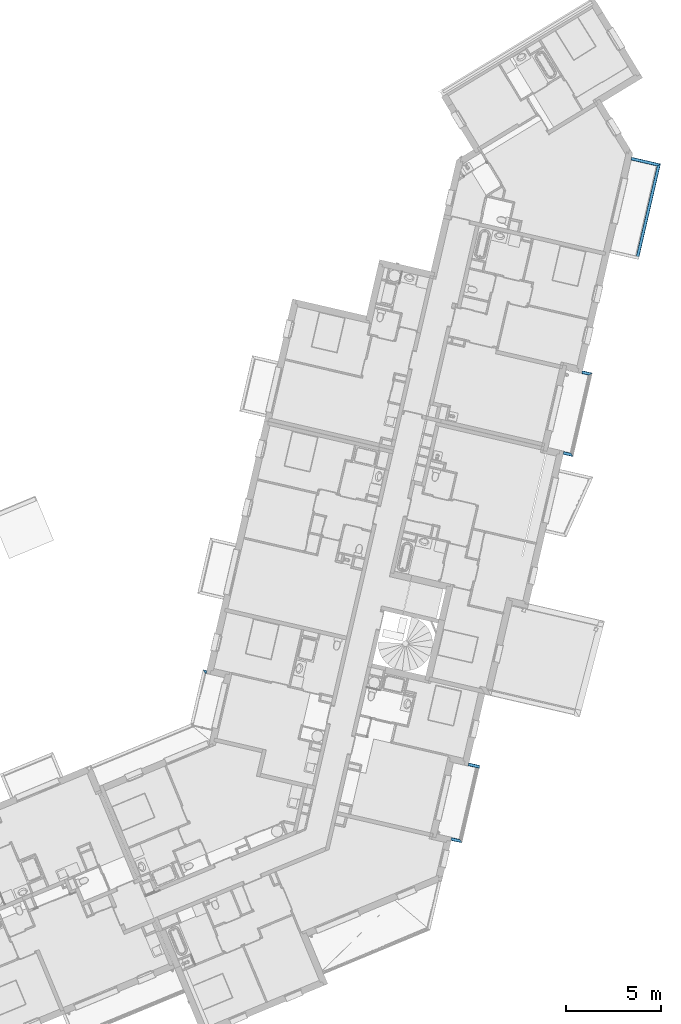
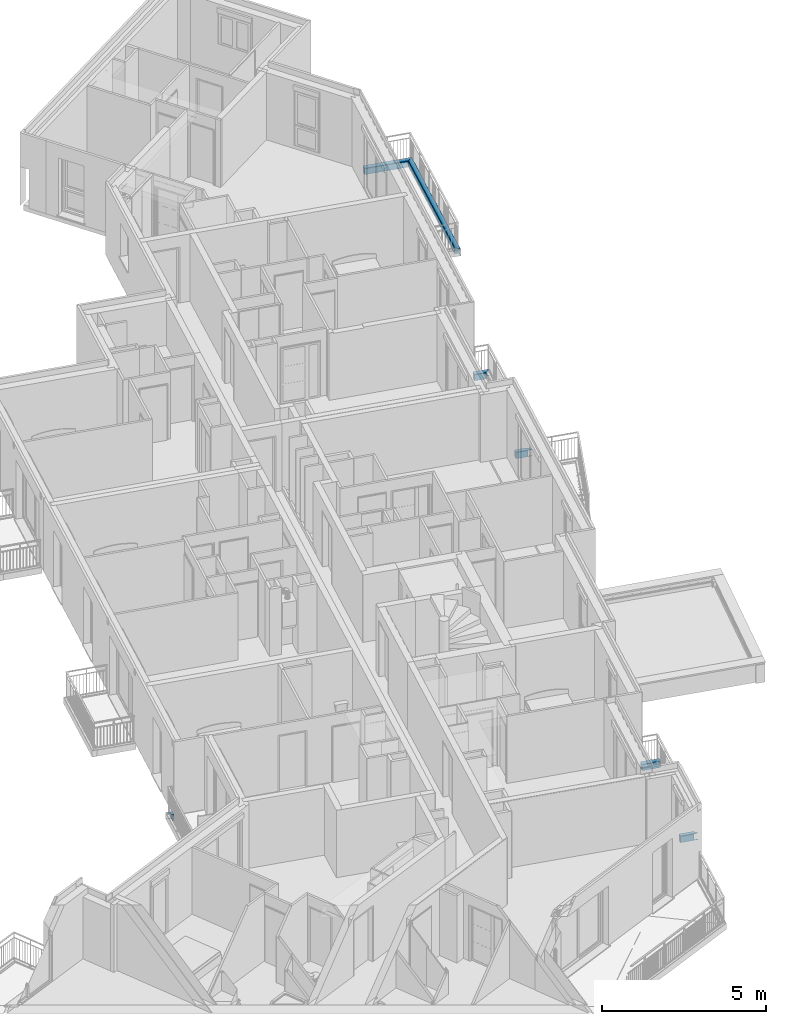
# One storey, part 4 of 90: 7 slabs.
"""IFC2X3 building model written with IfcOpenShell, lengths in metres."""

import ifcopenshell
import ifcopenshell.guid

model = None  # the IFC model being written
_history = None  # IfcOwnerHistory: only IFC2X3 demands one
_inside = {}  # id of a spatial element -> (the spatial element, [elements in it])
_under = {}  # id of a project, library or spatial element -> (it, [spatial elements below it])
_declared = {}  # id of a project -> (the project, [libraries it declares])
_typed = {}  # id of a type object -> (the type object, [elements of that type])
_made_of = {}  # id of a material, layer set ... -> (it, [elements and type objects made of it])


def new_model(schema):
    """Start an empty IFC model of exactly this schema.

    Asked for "IFC4X3", IfcOpenShell would pick the latest addendum, in which some entities
    have other attributes; the version numbers below select the first issue.
    IFC2X3 requires an IfcOwnerHistory on every rooted entity: one is made here for all.
    """
    global model, _history
    if schema == "IFC4X3":
        model = ifcopenshell.file(schema_version=(4, 3, 0, 0))
    else:
        model = ifcopenshell.file(schema=schema)
    _inside.clear()
    _under.clear()
    _declared.clear()
    _typed.clear()
    _made_of.clear()
    _history = None
    if model.schema == "IFC2X3":
        org = make("IfcOrganization", Name="unknown")
        user = make(
            "IfcPersonAndOrganization",
            ThePerson=make("IfcPerson", FamilyName="unknown"),
            TheOrganization=org,
        )
        app = make(
            "IfcApplication",
            ApplicationDeveloper=org,
            Version="unknown",
            ApplicationFullName="unknown",
            ApplicationIdentifier="unknown",
        )
        _history = make(
            "IfcOwnerHistory",
            OwningUser=user,
            OwningApplication=app,
            ChangeAction="ADDED",
            CreationDate=0,
        )
    return model


def make(cls, **values):
    """One entity of the class cls with the attributes given. An attribute that is None is left unset."""
    return model.create_entity(
        cls, **{name: value for name, value in values.items() if value is not None}
    )


def entity(cls, *values):
    """Any entity or typed value of the class cls, its attributes in the order of the schema. None: left unset."""
    e = model.create_entity(cls)
    for i, value in enumerate(values):
        if value is not None:
            e[i] = value
    return e


def rooted(cls, **values):
    """An entity with a GlobalId (a new one), such as an element, a storey or a relation."""
    return make(cls, GlobalId=ifcopenshell.guid.new(), OwnerHistory=_history, **values)


def si_unit(unit_type, name, prefix=None):
    """IfcSIUnit, for example si_unit("LENGTHUNIT", "METRE", prefix="MILLI")."""
    return make("IfcSIUnit", UnitType=unit_type, Prefix=prefix, Name=name)


def converted_unit(unit_type, name, factor, base, dimensions=None, offset=None):
    """IfcConversionBasedUnit, such as the inch: factor (a typed value) times the base unit."""
    return make(
        "IfcConversionBasedUnit"
        if offset is None
        else "IfcConversionBasedUnitWithOffset",
        ConversionOffset=offset,
        Dimensions=None
        if dimensions is None
        else entity("IfcDimensionalExponents", *dimensions),
        UnitType=unit_type,
        Name=name,
        ConversionFactor=make(
            "IfcMeasureWithUnit", ValueComponent=factor, UnitComponent=base
        ),
    )


def derived_unit(unit_type, elements):
    """IfcDerivedUnit: a product of units, each with its exponent."""
    return make(
        "IfcDerivedUnit",
        Elements=[
            make("IfcDerivedUnitElement", Unit=unit, Exponent=power)
            for unit, power in elements
        ],
        UnitType=unit_type,
    )


def money_unit(currency):
    """IfcMonetaryUnit."""
    return make("IfcMonetaryUnit", Currency=currency)


def assignment(units):
    """IfcUnitAssignment: the units of a project."""
    return None if units is None else make("IfcUnitAssignment", Units=units)


def point(xyz):
    """IfcCartesianPoint."""
    return None if xyz is None else make("IfcCartesianPoint", Coordinates=xyz)


def direction(xyz):
    """IfcDirection."""
    return None if xyz is None else make("IfcDirection", DirectionRatios=xyz)


def frame(location, z_axis=None, x_axis=None):
    """IfcAxis2Placement3D, a coordinate frame: its origin and axes. An axis left out is left unset."""
    return make(
        "IfcAxis2Placement3D",
        Location=point(location),
        Axis=direction(z_axis),
        RefDirection=direction(x_axis),
    )


def origin_with_axes():
    """The frame at (0, 0, 0) with the z axis (0, 0, 1) and the x axis (1, 0, 0) written out."""
    return frame((0.0, 0.0, 0.0), z_axis=(0.0, 0.0, 1.0), x_axis=(1.0, 0.0, 0.0))


def place(relative_to, where):
    """IfcLocalPlacement: puts the frame where relative to a parent placement (None: the world)."""
    return make(
        "IfcLocalPlacement", PlacementRelTo=relative_to, RelativePlacement=where
    )


def context(
    kind, dimensions, precision=None, world=None, true_north=None, identifier=None
):
    """IfcGeometricRepresentationContext, for example the 3D "Model" context."""
    return make(
        "IfcGeometricRepresentationContext",
        ContextIdentifier=identifier,
        ContextType=kind,
        CoordinateSpaceDimension=dimensions,
        Precision=precision,
        WorldCoordinateSystem=world,
        TrueNorth=true_north,
    )


def subcontext(parent, identifier, kind, view, scale=None):
    """IfcGeometricRepresentationSubContext, for example "Body" below "Model"."""
    return make(
        "IfcGeometricRepresentationSubContext",
        ContextIdentifier=identifier,
        ContextType=kind,
        ParentContext=parent,
        TargetScale=scale,
        TargetView=view,
    )


def project(units=None, contexts=None):
    """IfcProject with its units and contexts."""
    return rooted(
        "IfcProject",
        Name="project",
        RepresentationContexts=contexts,
        UnitsInContext=assignment(units),
    )


def spatial(cls, under=None, at=None, **own):
    """A site, building, storey or space (cls), placed at a placement, below another one or the project."""
    s = rooted(cls, ObjectPlacement=at, **own)
    if under is not None:
        _under.setdefault(under.id(), (under, []))[1].append(s)
    return s


def faces_of(points, faces, orient=None, outer=None):
    """IfcFace entities. A face is a list of loops; a loop is a list of indices into points, from 0.

    orient and outer hold one flag for each loop. By default every Orientation is true, the
    first loop of a face is its IfcFaceOuterBound and the others are IfcFaceBound.
    """
    made = []
    for i, loops in enumerate(faces):
        bounds = []
        for j, loop in enumerate(loops):
            is_outer = j == 0 if outer is None else outer[i][j]
            bounds.append(
                make(
                    "IfcFaceOuterBound" if is_outer else "IfcFaceBound",
                    Bound=make("IfcPolyLoop", Polygon=[points[k] for k in loop]),
                    Orientation=True if orient is None else orient[i][j],
                )
            )
        made.append(make("IfcFace", Bounds=bounds))
    return made


def faceted_brep(points, faces, orient=None, outer=None, voids=None):
    """IfcFacetedBrep: a solid bounded by flat faces; with voids (closed shells), ...WithVoids."""
    shared = [point(p) for p in points]
    hull = make("IfcClosedShell", CfsFaces=faces_of(shared, faces, orient, outer))
    if voids is None:
        return make("IfcFacetedBrep", Outer=hull)
    return make(
        "IfcFacetedBrepWithVoids",
        Outer=hull,
        Voids=[
            make(cls, CfsFaces=faces_of(shared, fs, o, b)) for cls, fs, o, b in voids
        ],
    )


def shape(context_of_items, identifier, shape_type, items):
    """IfcShapeRepresentation: the items that make up one representation, for example the "Body"."""
    return make(
        "IfcShapeRepresentation",
        ContextOfItems=context_of_items,
        RepresentationIdentifier=identifier,
        RepresentationType=shape_type,
        Items=items,
    )


def material(Name=None, Category=None):
    """IfcMaterial."""
    return make("IfcMaterial", Name=Name, Category=Category)


def made_of(thing, what):
    """Note that an element or type object is made of a material, layer set ...; save() writes the relation."""
    if what is not None:
        _made_of.setdefault(what.id(), (what, []))[1].append(thing)
    return thing


def type_object(cls, material=None, **own):
    """A type object (cls), such as IfcWallType, which elements share."""
    return made_of(rooted(cls, **own), material)


def element(
    cls,
    number,
    at=None,
    inside=None,
    cuts=None,
    type_object=None,
    material=None,
    context=None,
    identifier="Body",
    shape_type=None,
    held_by="IfcProductDefinitionShape",
    body=None,
    shapes=None,
    **own,
):
    """One element of the class cls, such as IfcWall. Its Tag is "e" and its number.

    at: its placement. inside: the storey or other place that contains it. cuts: it is an
    opening in that element (IfcRelVoidsElement). A single representation is given by context,
    identifier, shape_type and body (its items); several are given by shapes. held_by: the class
    of the entity that holds the representations. save() writes the other relations.
    """
    e = rooted(cls, Tag="e%d" % number, ObjectPlacement=at, **own)
    if body is not None:
        shapes = [shape(context, identifier, shape_type, body)]
    if shapes is not None:
        e.Representation = make(held_by, Representations=shapes)
    if inside is not None:
        _inside.setdefault(inside.id(), (inside, []))[1].append(e)
    if cuts is not None:
        rooted(
            "IfcRelVoidsElement", RelatingBuildingElement=cuts, RelatedOpeningElement=e
        )
    if type_object is not None:
        _typed.setdefault(type_object.id(), (type_object, []))[1].append(e)
    return made_of(e, material)


def aggregate(whole, parts):
    """IfcRelAggregates: a whole, such as a stair, and the parts it consists of."""
    return rooted("IfcRelAggregates", RelatingObject=whole, RelatedObjects=parts)


def save(model, path):
    """Write the relations noted so far, then the file.

    IfcRelAggregates (storeys below a building ...), IfcRelContainedInSpatialStructure (elements
    in a storey), IfcRelDefinesByType, IfcRelAssociatesMaterial and IfcRelDeclares: one each for
    every whole, place, type object, material and project.
    """
    for whole, parts in _under.values():
        aggregate(whole, parts)
    for where, things in _inside.values():
        rooted(
            "IfcRelContainedInSpatialStructure",
            RelatedElements=things,
            RelatingStructure=where,
        )
    for kind, things in _typed.values():
        rooted("IfcRelDefinesByType", RelatedObjects=things, RelatingType=kind)
    for what, things in _made_of.values():
        rooted("IfcRelAssociatesMaterial", RelatedObjects=things, RelatingMaterial=what)
    for by, libraries in _declared.values():
        rooted("IfcRelDeclares", RelatingContext=by, RelatedDefinitions=libraries)
    model.write(path)


model = new_model("IFC2X3")

# Units and contexts
model_context = context("Model", 3, precision=1e-05, world=origin_with_axes(), true_north=direction((0.0, 1.0)))
body_context = subcontext(model_context, "Body", "Model", "MODEL_VIEW")
ifc_project = project(units=[si_unit("LENGTHUNIT", "METRE"), si_unit("AREAUNIT", "SQUARE_METRE"), si_unit("VOLUMEUNIT", "CUBIC_METRE"), converted_unit("PLANEANGLEUNIT", "DEGREE", entity("IfcPlaneAngleMeasure", 0.0174532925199), si_unit("PLANEANGLEUNIT", "RADIAN"), dimensions=[0, 0, 0, 0, 0, 0, 0]), si_unit("SOLIDANGLEUNIT", "STERADIAN"), money_unit("EUR"), converted_unit("TIMEUNIT", "Year", entity("IfcTimeMeasure", 31556926.0), si_unit("TIMEUNIT", "SECOND"), dimensions=[0, 0, 1, 0, 0, 0, 0]), si_unit("MASSUNIT", "GRAM", prefix="KILO"), si_unit("THERMODYNAMICTEMPERATUREUNIT", "DEGREE_CELSIUS"), si_unit("LUMINOUSINTENSITYUNIT", "LUMEN"), si_unit("ENERGYUNIT", "JOULE", prefix="MEGA"), derived_unit("THERMALCONDUCTANCEUNIT", [(si_unit("POWERUNIT", "WATT"), 1), (si_unit("LENGTHUNIT", "METRE"), -1), (si_unit("THERMODYNAMICTEMPERATUREUNIT", "KELVIN"), -1)]), derived_unit("SPECIFICHEATCAPACITYUNIT", [(si_unit("ENERGYUNIT", "JOULE"), 1), (si_unit("MASSUNIT", "GRAM", prefix="KILO"), -1), (si_unit("THERMODYNAMICTEMPERATUREUNIT", "KELVIN"), -1)]), derived_unit("MASSDENSITYUNIT", [(si_unit("MASSUNIT", "GRAM", prefix="KILO"), 1), (si_unit("VOLUMEUNIT", "CUBIC_METRE"), -1)])], contexts=[model_context])

# Site, building, storey
site_placement = place(None, origin_with_axes())
site = spatial("IfcSite", under=ifc_project, at=site_placement, Name="Site", CompositionType="ELEMENT")
building_placement = place(site_placement, origin_with_axes())
building = spatial("IfcBuilding", under=site, at=building_placement, Name="Bâtiment", CompositionType="ELEMENT")
storey_placement = place(building_placement, frame((0.0, 0.0, 2.72), z_axis=(0.0, 0.0, 1.0), x_axis=(1.0, 0.0, 0.0)))
storey = spatial("IfcBuildingStorey", under=building, at=storey_placement, Name="R+1", CompositionType="ELEMENT", Elevation=2.72)

# Slabs
ifc_material = material(Name="Béton")
slab_type = type_object("IfcSlabType", Name="Nez de balcon 160 x 239", PredefinedType="USERDEFINED")
slab_1_placement = place(storey_placement, frame((-6.21285531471, -13.9345211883, -0.22), z_axis=(0.0, 0.0, 1.0), x_axis=(0.974387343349, -0.224876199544, 0.0)))
element("IfcSlab", 1, at=slab_1_placement, inside=storey, type_object=slab_type, material=ifc_material, Name="Nez-de-balcon béton", ObjectType="BALCONY", PredefinedType="USERDEFINED", context=body_context, shape_type="Brep", body=[
    faceted_brep([(0.600000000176, -0.16, 0.00872064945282), (0.575129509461, -0.16, 0.00872064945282), (0.575129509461, -0.0248704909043, 0.00872064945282), (0.600000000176, -0.0248704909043, 0.00872064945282), (0.565259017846, -0.16, 0.0), (0.568543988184, -0.16, 0.00622819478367), (0.600000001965, -0.16, 0.22), (0.0, -0.16, 0.22), (0.0, -0.16, 0.0), (0.568543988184, -0.0314560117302, 0.00622819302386), (0.600000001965, -0.018284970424, 0.00622819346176), (0.0, -0.0248704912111, 0.00872065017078), (0.0, -0.018284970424, 0.00622819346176), (0.600000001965, -0.015, 0.0), (0.600000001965, 0.0, 0.0), (0.600000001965, 0.0, 0.230000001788), (0.600000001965, -0.150605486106, 0.230000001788), (0.565259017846, -0.0347409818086, 0.0), (0.599336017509, -0.150019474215, 0.230623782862), (0.0, -0.150019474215, 0.230623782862), (0.0, -0.0314560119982, 0.00622819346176), (0.0, -0.0347409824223, 0.0), (0.0, -0.00998052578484, 0.239376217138), (0.0, 0.0, 0.23), (0.0, 0.0, 0.0), (0.0, -0.015, 0.0), (0.590019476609, -0.00998052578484, 0.239376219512)], [[[0, 1, 2, 3]], [[4, 5, 1, 0, 6, 7, 8]], [[5, 9, 2, 1]], [[10, 3, 2, 11, 12]], [[6, 0, 3, 10, 13, 14, 15, 16]], [[4, 17, 9, 5]], [[7, 6, 16, 18, 19]], [[20, 21, 8, 7, 19, 22, 23, 24, 25, 12, 11]], [[21, 17, 4, 8]], [[11, 2, 9, 20]], [[12, 25, 13, 10]], [[25, 24, 14, 13]], [[24, 23, 15, 14]], [[18, 16, 15, 26]], [[20, 9, 17, 21]], [[22, 19, 18, 26]], [[23, 22, 26, 15]]]),
])
slab_2_placement = place(storey_placement, frame((-6.56504853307, -18.1287072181, -0.22), z_axis=(0.0, 0.0, 1.0), x_axis=(-0.977900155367, 0.209072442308, 0.0)))
element("IfcSlab", 2, at=slab_2_placement, inside=storey, type_object=slab_type, material=ifc_material, Name="Nez-de-balcon béton", ObjectType="BALCONY", PredefinedType="USERDEFINED", context=body_context, shape_type="Brep", body=[
    faceted_brep([(0.599835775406, -0.0150000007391, 0.0), (0.60007863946, 0.0, 0.0), (0.60007863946, 0.0, 0.00872065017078), (0.59967596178, -0.0248704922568, 0.00872065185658), (0.599782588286, -0.0182849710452, 0.00622819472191), (0.0150019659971, 0.0, 0.0), (0.0147591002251, -0.0150000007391, 0.0), (0.60007863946, -1.05992921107e-07, 0.0095500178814), (0.018287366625, 0.0, 0.00622819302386), (0.0248737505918, 0.0, 0.00872064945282), (0.160020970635, 0.0, 0.00872065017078), (0.160020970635, 0.0, 0.22), (0.150625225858, 0.0, 0.230000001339), (0.60007863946, 0.0, 0.23), (0.60007863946, 0.0, 0.22), (0.60007863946, -1.05993006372e-07, 0.02), (0.597488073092, -0.16, 0.0095500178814), (0.597488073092, -0.16, 0.00872064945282), (0.0179913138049, -0.0182849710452, 0.00622819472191), (0.159618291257, -0.0248704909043, 0.00872064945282), (0.0244710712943, -0.0248704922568, 0.00872065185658), (0.157430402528, -0.16, 0.00872064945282), (0.157430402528, -0.16, 0.22), (0.150028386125, -0.000663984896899, 0.230623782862), (0.14761016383, -0.150019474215, 0.230623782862), (0.00982023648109, -0.00998052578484, 0.239376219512), (0.599917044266, -0.00998052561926, 0.239376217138), (0.597488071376, -0.16, 0.22), (0.597649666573, -0.150019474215, 0.230623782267), (0.597488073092, -0.16, 0.02), (0.157430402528, -0.16, 0.0), (0.597488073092, -0.16, 0.0), (0.599516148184, -0.0347409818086, 0.0), (0.599569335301, -0.0314560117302, 0.00622819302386), (0.159511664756, -0.0314560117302, 0.00622819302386), (0.159458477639, -0.0347409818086, 0.0)], [[[0, 1, 2, 3, 4]], [[5, 1, 0, 6]], [[7, 2, 1, 5, 8, 9, 10, 11, 12, 13, 14, 15]], [[3, 2, 7, 16, 17]], [[18, 4, 3, 19, 20]], [[6, 0, 4, 18]], [[8, 5, 6, 18]], [[20, 9, 8, 18]], [[20, 19, 10, 9]], [[11, 10, 19, 21, 22]], [[23, 12, 11, 22, 24]], [[25, 26, 13, 12, 23]], [[27, 14, 13, 26, 28]], [[29, 15, 14, 27]], [[16, 7, 15, 29]], [[30, 31, 17, 16, 29, 27, 22, 21]], [[31, 32, 33, 3, 17]], [[19, 3, 33, 34]], [[34, 35, 30, 21, 19]], [[22, 27, 28, 24]], [[24, 25, 23]], [[24, 28, 26, 25]], [[35, 32, 31, 30]], [[34, 33, 32, 35]]]),
])
slab_3_placement = place(storey_placement, frame((-20.1387201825, -9.05128364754, -0.21), z_axis=(0.0, 0.0, 1.0), x_axis=(0.974387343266, -0.224876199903, 0.0)))
element("IfcSlab", 3, at=slab_3_placement, inside=storey, type_object=slab_type, material=ifc_material, Name="Nez-de-balcon béton", ObjectType="BALCONY", PredefinedType="USERDEFINED", context=body_context, shape_type="Brep", body=[
    faceted_brep([(0.015, 0.0, 0.0), (0.015, -0.0150000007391, 0.0), (0.0182849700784, -0.0182849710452, 0.00622819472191), (0.0182849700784, 0.0, 0.00622819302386), (0.219999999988, -0.015, 0.0), (0.219999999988, 0.0, 0.0), (0.219999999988, -0.018284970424, 0.00622819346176), (0.0248704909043, -0.0248704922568, 0.00872065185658), (0.0248704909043, 0.0, 0.00872064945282), (0.16, 0.0, 0.00872065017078), (0.16, 0.0, 0.22), (0.150605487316, 0.0, 0.230000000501), (0.219999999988, 0.0, 0.23), (0.219999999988, -0.150019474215, 0.230623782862), (0.219999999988, -0.16, 0.22), (0.219999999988, -0.16, 0.0), (0.219999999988, -0.0347409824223, 0.0), (0.219999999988, -0.0314560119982, 0.00622819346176), (0.219999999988, -0.0248704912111, 0.00872065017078), (0.219999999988, -0.00998052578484, 0.239376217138), (0.16, -0.0248704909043, 0.00872064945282), (0.16, -0.16, 0.00872064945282), (0.16, -0.16, 0.22), (0.150019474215, -0.150019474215, 0.230623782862), (0.150019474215, -0.000663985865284, 0.230623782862), (0.0099805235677, -0.00998052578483, 0.239376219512), (0.16, -0.16, 0.0), (0.16, -0.0347409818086, 0.0), (0.16, -0.0314560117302, 0.00622819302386)], [[[0, 1, 2, 3]], [[4, 1, 0, 5]], [[6, 2, 1, 4]], [[3, 2, 7, 8]], [[5, 0, 3, 8, 9, 10, 11, 12]], [[13, 14, 15, 16, 17, 18, 6, 4, 5, 12, 19]], [[18, 20, 7, 2, 6]], [[8, 7, 20, 9]], [[20, 21, 22, 10, 9]], [[10, 22, 23, 24, 11]], [[12, 11, 24, 25, 19]], [[13, 23, 22, 14]], [[22, 21, 26, 15, 14]], [[15, 26, 27, 16]], [[17, 16, 27, 28]], [[18, 17, 28, 20]], [[19, 25, 23, 13]], [[28, 27, 26, 21, 20]], [[24, 23, 25]]]),
])
slab_4_placement = place(storey_placement, frame((-0.262589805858, 6.60777226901, -0.22), z_axis=(0.0, 0.0, 1.0), x_axis=(0.974387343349, -0.224876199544, 0.0)))
element("IfcSlab", 4, at=slab_4_placement, inside=storey, type_object=slab_type, material=ifc_material, Name="Nez-de-balcon béton", ObjectType="BALCONY", PredefinedType="USERDEFINED", context=body_context, shape_type="Brep", body=[
    faceted_brep([(0.385039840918, -0.16, 0.22), (0.0, -0.16, 0.22), (0.0, -0.16, 0.0), (0.385039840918, -0.16, 0.0), (0.385039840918, -0.16, 0.00872064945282), (0.395017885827, -0.150019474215, 0.230623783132), (0.0, -0.150019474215, 0.230623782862), (0.0, -0.0347409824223, 0.0), (0.0, -0.00998052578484, 0.239376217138), (0.0, 0.0, 0.23), (0.0, 0.0, 0.0), (0.0, -0.015, 0.0), (0.0, -0.018284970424, 0.00622819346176), (0.0, -0.0248704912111, 0.00872065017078), (0.0, -0.0314560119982, 0.00622819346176), (0.385008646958, -0.0347409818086, 0.0), (0.385007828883, -0.0314560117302, 0.00622819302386), (0.385006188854, -0.0248704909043, 0.00872064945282), (0.384999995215, 0.0, 0.22), (0.384999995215, 0.0, 0.00872065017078), (0.535021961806, -0.00998052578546, 0.239376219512), (0.394980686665, -0.000663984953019, 0.230623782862), (0.394394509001, 0.0, 0.230000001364), (0.529999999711, 0.0, 0.0), (0.520129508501, 0.0, 0.00872064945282), (0.526715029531, 0.0, 0.00622819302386), (0.530003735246, -0.0150000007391, 0.0), (0.52671958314, -0.0182849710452, 0.00622819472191), (0.52013570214, -0.0248704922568, 0.00872065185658)], [[[0, 1, 2, 3, 4]], [[5, 6, 1, 0]], [[7, 2, 1, 6, 8, 9, 10, 11, 12, 13, 14]], [[3, 2, 7, 15]], [[4, 3, 15, 16, 17]], [[18, 0, 4, 17, 19]], [[20, 8, 6, 5]], [[21, 5, 0, 18, 22]], [[22, 9, 8, 20, 21]], [[23, 10, 9, 22, 18, 19, 24, 25]], [[26, 11, 10, 23]], [[27, 12, 11, 26]], [[17, 13, 12, 27, 28]], [[16, 14, 13, 17]], [[15, 7, 14, 16]], [[24, 19, 17, 28]], [[21, 20, 5]], [[24, 28, 27, 25]], [[27, 26, 23, 25]]]),
])
slab_5_placement = place(storey_placement, frame((-0.742537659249, 2.09962098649, -0.22), z_axis=(0.0, 0.0, 1.0), x_axis=(-0.974387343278, 0.22487619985, 0.0)))
element("IfcSlab", 5, at=slab_5_placement, inside=storey, type_object=slab_type, material=ifc_material, Name="Nez-de-balcon béton", ObjectType="BALCONY", PredefinedType="USERDEFINED", context=body_context, shape_type="Brep", body=[
    faceted_brep([(0.150605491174, 0.0, 0.230000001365), (0.54612081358, 0.0, 0.23), (0.54612081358, 0.0, 0.0), (0.0150000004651, 0.0, 0.0), (0.0182849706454, 0.0, 0.00622819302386), (0.0248704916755, 0.0, 0.00872064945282), (0.160000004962, 0.0, 0.00872065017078), (0.160000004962, 0.0, 0.22), (0.00998300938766, -0.00998052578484, 0.239376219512), (0.54612081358, -0.00998052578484, 0.239376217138), (0.150019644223, -0.000663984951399, 0.230623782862), (0.54612081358, -0.015, 0.0), (0.54612081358, -0.150019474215, 0.230623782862), (0.54612081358, -0.16, 0.22), (0.54612081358, -0.16, 0.0), (0.54612081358, -0.0347409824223, 0.0), (0.54612081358, -0.0314560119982, 0.00622819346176), (0.54612081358, -0.0248704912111, 0.00872065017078), (0.54612081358, -0.018284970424, 0.00622819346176), (0.0150037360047, -0.0150000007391, 0.0), (0.0182895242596, -0.0182849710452, 0.00622819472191), (0.0248766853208, -0.0248704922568, 0.00872065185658), (0.160006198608, -0.0248704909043, 0.00872064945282), (0.160039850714, -0.16, 0.00872064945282), (0.160039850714, -0.16, 0.22), (0.150056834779, -0.150019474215, 0.230623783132), (0.160039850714, -0.16, 0.0), (0.160008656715, -0.0347409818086, 0.0), (0.160007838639, -0.0314560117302, 0.00622819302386)], [[[0, 1, 2, 3, 4, 5, 6, 7]], [[8, 9, 1, 0, 10]], [[11, 2, 1, 9, 12, 13, 14, 15, 16, 17, 18]], [[3, 2, 11, 19]], [[20, 4, 3, 19]], [[21, 5, 4, 20]], [[21, 22, 6, 5]], [[7, 6, 22, 23, 24]], [[10, 0, 7, 24, 25]], [[25, 12, 9, 8]], [[25, 8, 10]], [[24, 13, 12, 25]], [[24, 23, 26, 14, 13]], [[27, 15, 14, 26]], [[28, 16, 15, 27]], [[22, 17, 16, 28]], [[20, 18, 17, 22, 21]], [[19, 11, 18, 20]], [[22, 28, 27, 26, 23]]]),
])
slab_6_placement = place(storey_placement, frame((2.68078262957, 12.4242386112, -0.22), z_axis=(0.0, 0.0, 1.0), x_axis=(0.22487619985, 0.974387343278, 0.0)))
element("IfcSlab", 6, at=slab_6_placement, inside=storey, type_object=slab_type, material=ifc_material, Name="Nez-de-balcon béton", ObjectType="BALCONY", PredefinedType="USERDEFINED", context=body_context, shape_type="Brep", body=[
    faceted_brep([(0.0248704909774, 0.0248704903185, 0.00872065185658), (0.0182849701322, 0.0182849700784, 0.00622819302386), (0.0182849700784, 0.0, 0.00622819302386), (0.0248704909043, 0.0, 0.00872064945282), (5.14956648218, 0.018284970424, 0.00622819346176), (0.160000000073, 0.0248704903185, 0.00872065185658), (5.12469598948, 0.0248704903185, 0.00872065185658), (5.14956648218, 0.0248704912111, 0.00872065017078), (0.0150000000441, 0.015, 0.0), (0.015, 0.0, 0.0), (5.14956648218, 0.0, 0.0), (5.14956648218, 0.0, 0.230000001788), (0.150605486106, 0.0, 0.230000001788), (0.16, 0.0, 0.22), (0.16, 0.0, 0.00872065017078), (5.14956648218, 0.015, 0.0), (0.160000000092, 0.0314560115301, 0.00622819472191), (5.11811046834, 0.0314560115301, 0.00622819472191), (5.12469598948, 0.16, 0.00872064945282), (5.14956648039, 0.16, 0.00872064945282), (5.14956648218, 0.16, 0.22), (5.14956648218, 0.150605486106, 0.230000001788), (5.13958595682, 0.00998052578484, 0.239376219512), (0.00998052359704, 0.00998052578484, 0.239376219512), (0.150019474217, 0.000663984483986, 0.230623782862), (0.150019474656, 0.150019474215, 0.230623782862), (0.16000000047, 0.16, 0.22), (0.16000000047, 0.16, 0.00872064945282), (0.16000000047, 0.16, 0.0), (0.160000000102, 0.0347409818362, 0.0), (5.11482549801, 0.0347409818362, 0.0), (5.11811046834, 0.16, 0.00622819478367), (5.11482549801, 0.16, 0.0), (5.14890249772, 0.150019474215, 0.230623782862)], [[[0, 1, 2, 3]], [[4, 1, 0, 5, 6, 7]], [[1, 8, 9, 2]], [[3, 2, 9, 10, 11, 12, 13, 14]], [[5, 0, 3, 14]], [[15, 8, 1, 4]], [[6, 5, 16, 17]], [[6, 18, 19, 7]], [[7, 19, 20, 21, 11, 10, 15, 4]], [[10, 9, 8, 15]], [[22, 23, 24, 12, 11]], [[24, 25, 26, 13, 12]], [[26, 27, 5, 14, 13]], [[27, 28, 29, 16, 5]], [[17, 16, 29, 30]], [[6, 17, 31, 18]], [[32, 28, 27, 26, 20, 19, 18, 31]], [[20, 26, 25, 33, 21]], [[11, 21, 33, 22]], [[33, 25, 23, 22]], [[24, 23, 25]], [[30, 29, 28, 32]], [[17, 30, 32, 31]]]),
])
slab_7_placement = place(storey_placement, frame((3.83879757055, 17.4419110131, -0.22), z_axis=(0.0, 0.0, 1.0), x_axis=(-0.974387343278, 0.22487619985, 0.0)))
element("IfcSlab", 7, at=slab_7_placement, inside=storey, type_object=slab_type, material=ifc_material, Name="Nez-de-balcon béton", ObjectType="BALCONY", PredefinedType="USERDEFINED", context=body_context, shape_type="Brep", body=[
    faceted_brep([(1.56, 0.0314560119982, 0.00622819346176), (1.56, 0.0347409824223, 0.0), (1.56, 0.16, 0.0), (1.56, 0.16, 0.22), (1.56, 0.150019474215, 0.230623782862), (1.56, 0.00998052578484, 0.239376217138), (1.56, 0.0, 0.23), (1.56, 0.0, 0.0), (1.56, 0.015, 0.0), (1.56, 0.018284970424, 0.00622819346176), (1.56, 0.0248704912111, 0.00872065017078), (0.16, 0.0347409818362, 0.0), (0.16, 0.0314560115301, 0.00622819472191), (0.16, 0.16, 0.0), (0.16, 0.16, 0.22), (0.16, 0.16, 0.00872064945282), (0.150019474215, 0.150019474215, 0.230623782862), (0.0099805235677, 0.00998052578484, 0.239376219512), (0.150605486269, 0.0, 0.230000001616), (0.150019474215, 0.00066398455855, 0.230623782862), (0.015, 0.0, 0.0), (0.16, 0.0, 0.22), (0.16, 0.0, 0.00872065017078), (0.0248704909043, 0.0, 0.00872064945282), (0.0182849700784, 0.0, 0.00622819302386), (0.015, 0.015, 0.0), (0.0182849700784, 0.0182849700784, 0.00622819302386), (0.16, 0.0248704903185, 0.00872065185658), (0.0248704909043, 0.0248704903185, 0.00872065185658)], [[[0, 1, 2, 3, 4, 5, 6, 7, 8, 9, 10]], [[11, 1, 0, 12]], [[13, 2, 1, 11]], [[14, 3, 2, 13, 15]], [[16, 4, 3, 14]], [[17, 5, 4, 16]], [[18, 6, 5, 17, 19]], [[20, 7, 6, 18, 21, 22, 23, 24]], [[25, 8, 7, 20]], [[26, 9, 8, 25]], [[27, 10, 9, 26, 28]], [[12, 0, 10, 27]], [[15, 13, 11, 12, 27]], [[21, 14, 15, 27, 22]], [[19, 16, 14, 21, 18]], [[17, 16, 19]], [[22, 27, 28, 23]], [[24, 23, 28, 26]], [[24, 26, 25, 20]]]),
])

save(model, "model.ifc")
